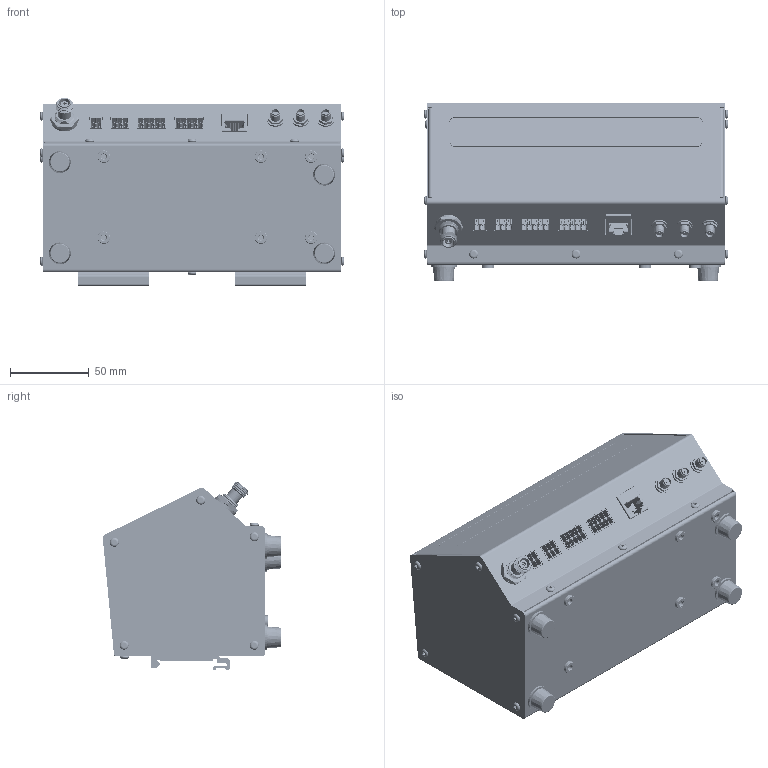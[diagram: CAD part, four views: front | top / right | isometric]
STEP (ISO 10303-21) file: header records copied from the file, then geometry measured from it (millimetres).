
FILE_DESCRIPTION (( 'STEP AP214' ), '1' );
FILE_NAME ('RockREMOTE_Classic(NO INTERNALS) 27-03-24.STEP', '2024-03-27T14:11:29', ( '' ), ( '' ), 'SwSTEP 2.0', 'SolidWorks 2024', '' );
FILE_SCHEMA (( 'AUTOMOTIVE_DESIGN' ));
Length unit declared in the file: millimetre
Products named in the file (29): 00350  -  E; 2301995-2; dmcv_1.5-3-g1-3.5; SMA connector; 00351  -  D; 00352  -  C; dmcv_1.5-5-g1-3.5; Polymax_FCL1017-BL-128; DRP-03 Mean well DIN rail mount; 00357; PEM S-M3-0ZI; M4 x 4mm Skt Cap; RJ45 PCB_3; BSO-M3-16ZI-PennEngineering-3D-11-11-2020; PEM BSO-M3-10ZI 10mm; TBJCR174 body; dmcv_1.5-2-g1-3.5; 10350  -  D; 56K611-271N5 assy; M3x4 Skt Button; 00358  -  B; BSO-M3-10ZI; RockREMOTE_Classic(NO INTERNALS) 27-03-24; Nut 0.5 inch 16mm; 10351  -  D; 00357  -  A; 00355  -  A; PEM S-M4-0ZI; TBJCR174 Washer
Assembly tree (94 placements, depth 3):
  RockREMOTE_Classic(NO INTERNALS) 27-03-24
    10351  -  D
      00351  -  D
      PEM S-M3-0ZI  x9
      PEM S-M4-0ZI  x6
      BSO-M3-10ZI  x3
    10350  -  D
      00350  -  E
      PEM S-M3-0ZI  x7
      PEM BSO-M3-10ZI 10mm  x6
      BSO-M3-16ZI-PennEngineering-3D-11-11-2020  x2
    DRP-03 Mean well DIN rail mount  x2
    SMA connector  x3
    56K611-271N5 assy
      TBJCR174 body
      Nut 0.5 inch 16mm
      TBJCR174 Washer
    M3x4 Skt Button  x27
    00355  -  A
    00358  -  B
      RJ45 PCB_3
      2301995-2
    00357
    00352  -  C  x2
    M4 x 4mm Skt Cap  x4
    00357  -  A
      00357
      dmcv_1.5-3-g1-3.5
      dmcv_1.5-2-g1-3.5
      dmcv_1.5-5-g1-3.5  x2
    Polymax_FCL1017-BL-128  x4
Bounding box: 193.3 x 113.45 x 119.82 mm (x, y, z)
Volume: 147221.5 mm3; surface area: 262331 mm2
Topology: 101 solids, 101 shells, 6100 faces, 17161 edges, 11726 vertices
Faces by surface type: plane 3688, cylinder 1635, cone 525, torus 144, bspline 108
Entity records: 126755 total; most frequent: CARTESIAN_POINT 39435, ORIENTED_EDGE 19830, DIRECTION 15585, EDGE_CURVE 9915, VERTEX_POINT 7144, VECTOR 6133, LINE 6133, AXIS2_PLACEMENT_3D 4726
